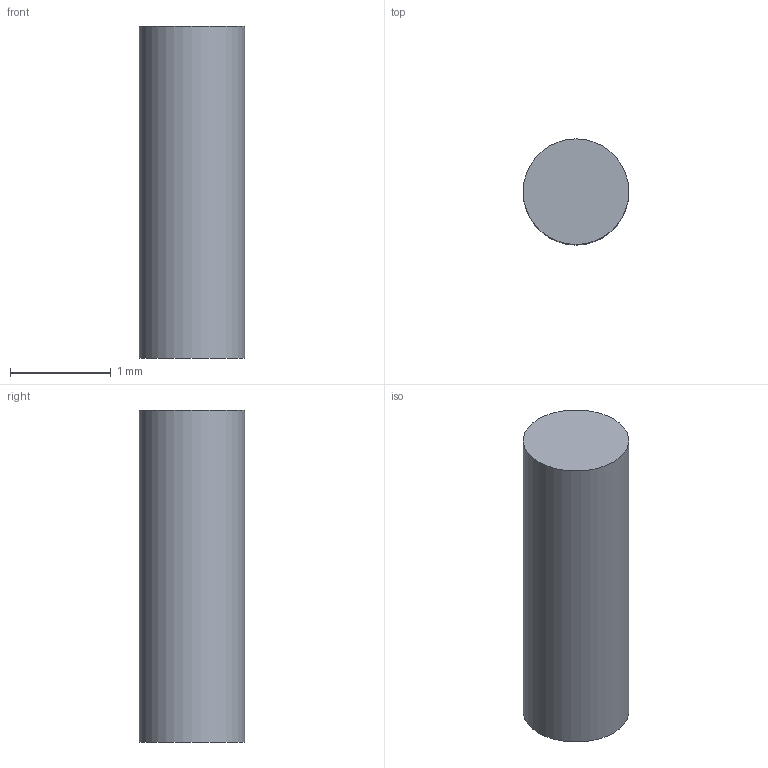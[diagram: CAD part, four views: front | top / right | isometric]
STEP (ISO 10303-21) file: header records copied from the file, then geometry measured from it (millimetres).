
FILE_DESCRIPTION(('FreeCAD Model'),'2;1');
FILE_NAME('Open CASCADE Shape Model','2026-11-13T18:42:42',('FreeCAD'),( 'FreeCAD'),'Open CASCADE STEP processor 7.8','FreeCAD','Unknown');
FILE_SCHEMA(('AUTOMOTIVE_DESIGN { 1 0 10303 214 1 1 1 1 }'));
Length unit declared in the file: millimetre
Products named in the file (1): Open CASCADE STEP translator 7.8 24
Bounding box: 1.05 x 1.05 x 3.3 mm (x, y, z)
Volume: 2.9 mm3; surface area: 12.6 mm2
Topology: 1 solids, 1 shells, 3 faces, 3 edges, 2 vertices
Faces by surface type: plane 2, cylinder 1
Full cylindrical faces by diameter (mm): 1.05 x1
Entity records: 69 total; most frequent: DIRECTION 13, CARTESIAN_POINT 9, AXIS2_PLACEMENT_3D 6, ORIENTED_EDGE 6, ADVANCED_FACE 3, FACE_BOUND 3, EDGE_LOOP 3, EDGE_CURVE 3
